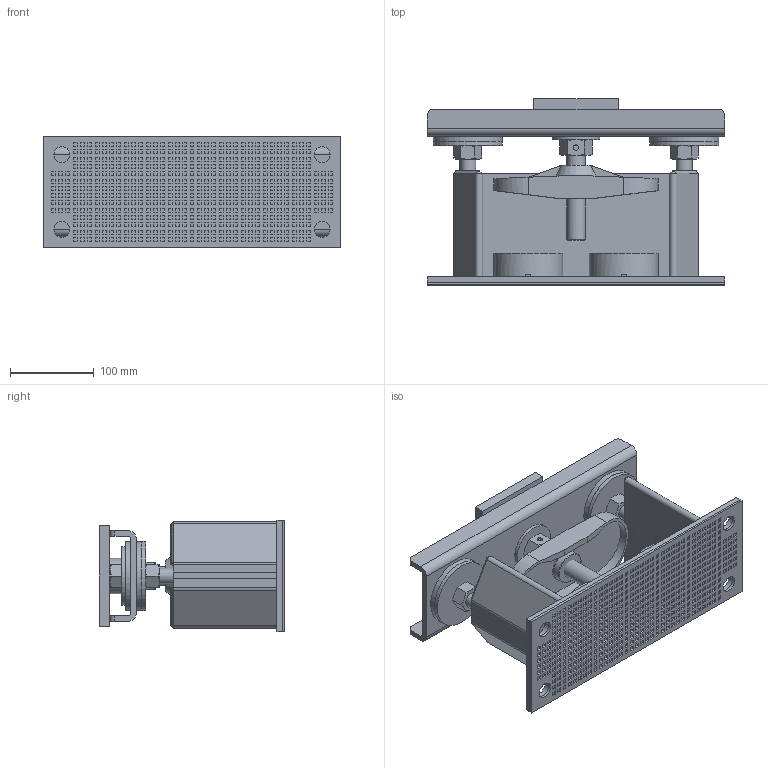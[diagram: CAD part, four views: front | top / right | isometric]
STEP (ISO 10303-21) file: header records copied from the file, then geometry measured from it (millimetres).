
FILE_DESCRIPTION(/* description */ (''),/* implementation_level */ '2;1');
FILE_NAME(/* name */ 'E:\CAD-PROE_SOLIDS\WEBSITE FILES 05.22.13\STEP\SLRSO\SLRSO2.stp',/* time_stamp */ '2014-05-16T09:31:16-04:00',/* author */ ('mleuck'),/* organization */ (''),/* preprocessor_version */ 'ST-DEVELOPER v15.2',/* originating_system */ 'Autodesk Inventor 2014',/* authorisation */ '');
FILE_SCHEMA (('AUTOMOTIVE_DESIGN { 1 0 10303 214 3 1 1 }'));
Products named in the file (37): SLRSO-2 NEOPRENE BASE PAD (A-28173); SLRSO-2 BASE PLATE SIDE STANCHION (D-3890-6); SLRSO-2 BASE PLATE SQUARE BAR (D-3890-6); SLRSO-2 BASE PLATE BACK SECTION (D-3890-6); SLRSO-2 BASE PLATE (D-3890-6); SLRSO-2 BASE PLATE PART B (D-3890-6); SLRSO-2 BASE PLATE PART A (D-3890-6); SLRSO-2 BASE PLATE PART B WELD (D-3890-6); SLRSO-2 BASE PLATE VERTICAL WELD (D-3890-6); SLRSO-2 BASE PLATE PART A WELD (D-3890-6); SLRSO-2 BASE PLATE PART B MIRRORED (D-3890-6); SLRSO-2 BASE PLATE PART A MIRRORED (D-3890-6); SLRSO-2 BASE PLATE PART B WELD MIRRORED (D-3890-6); SLRSO-2 BASE PLATE PART A WELD MIRRORED (D-3890-6); SLRSO-2 BASE PLATE VERTICAL WELD MIRRORED (D-3890-6); SLRSO-2 BASE PLATE PLUG WELD (D-3890-6); SLRSO-2 BASE ASSEMBLY (D-3890-6); SLRSO-2 RESTRAINING BOLT BOTTOM WASHER (D-3892-7); SLRSO-2 RESTRAINING BOLT TOP WASHER (D-3892-7); SLRSO-2 RESTRAINING BOLT BUSHING (D-3892-7); SLRSO-2 ADJUSTMENT BOLT (D-3829-7); ANSI B18.2.2 - 7_8 - 9(2); SLRSO-2 ADJUSTMENT BOLT PIN (D-3829-7); SLRSO-2 ADJUSTMENT BOLT ASSEMBLY (D-3829-7); SLRSO-2 RESTRAINING BOLT (D-3892-7); SLRSO-2 TOP CHANNEL (D-3891-3); SLRSO-2 TOP CHANNEL WASHER (D-3891-3); SLRSO-2 TOP CHANNEL PIPE (D-3891-3); SLRSO-2 TOP CHANNEL BOLTING PLATE (D-3891-3); SLRSO-2 TOP CHANNEL ASSEMBLY (D-3891-3); ANSI B18.2.2 - 3_4 - 10(2); SLRSO-1 NEOPRENE SPRING BOTTOM CUP WASHER (A-28071-2); SLRSO-1 NEOPRENE SPRING BOTTOM CUP (A-28071-2); SLF-2 TOP SPRING CASTING (C-1841-2); SLRSO-2 FULL ASSEMBLY WOP WOS (D-3892-7); SLRSO-2 FULL ASSEMBLY WOS (D-3892-7)
Bounding box: 355.6 x 222.25 x 133.35 mm (x, y, z)
Volume: 2050333.2 mm3; surface area: 867963.5 mm2
Topology: 45 solids, 47 shells, 3014 faces, 7101 edges, 4685 vertices
Faces by surface type: plane 2809, cylinder 129, cone 72, torus 4
Full cylindrical faces by diameter (mm): 6.35 x4, 12.7 x2, 14.287 x4, 15.875 x8, 16.307 x2, 19.05 x28, 19.177 x2, 20.637 x4, 22.225 x1, 23.812 x2, 28.575 x2, 35.052 x1, 38.1 x3, 42.164 x1, 44.45 x4, 57.15 x1, 69.85 x2, 72.231 x2, 73.025 x4, 82.55 x8
Entity records: 81776 total; most frequent: CARTESIAN_POINT 14463, ORIENTED_EDGE 13478, DIRECTION 12852, EDGE_CURVE 6739, LINE 6408, VECTOR 6408, VERTEX_POINT 4493, EDGE_LOOP 3524
